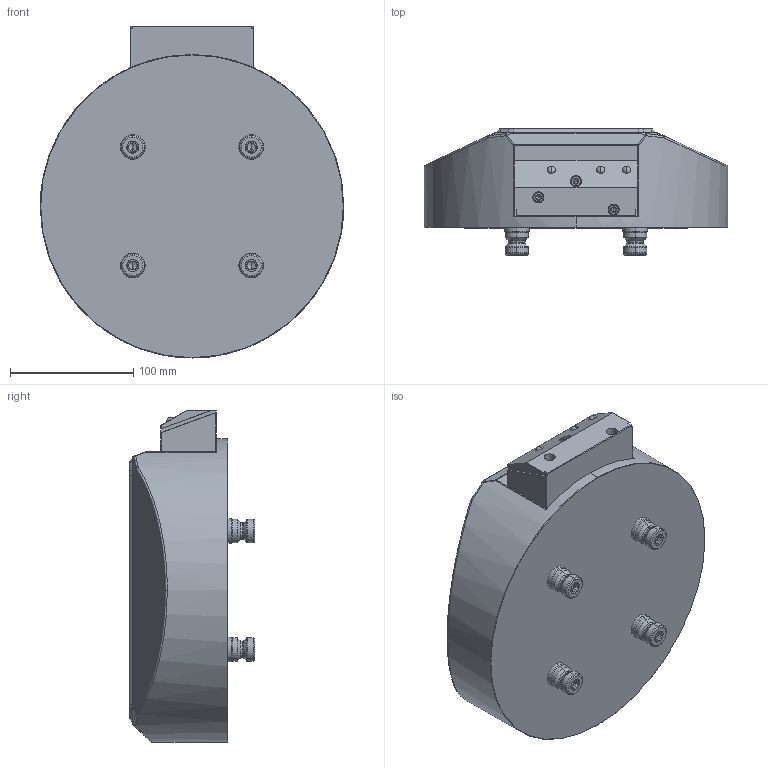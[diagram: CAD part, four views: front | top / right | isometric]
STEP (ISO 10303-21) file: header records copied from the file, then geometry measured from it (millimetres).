
FILE_DESCRIPTION (( 'STEP AP214' ), '1' );
FILE_NAME ('64500.STEP', '2022-08-10T12:27:35', ( '' ), ( '' ), 'SwSTEP 2.0', 'SolidWorks 2021', '' );
FILE_SCHEMA (( 'AUTOMOTIVE_DESIGN' ));
Length unit declared in the file: millimetre
Products named in the file (1): 64500
Bounding box: 246 x 102 x 269.15 mm (x, y, z)
Volume: 3197619 mm3; surface area: 296935.7 mm2
Topology: 21 solids, 22 shells, 785 faces, 1792 edges, 1061 vertices
Faces by surface type: plane 243, cylinder 235, cone 197, torus 76, bspline 26, sphere 8
Entity records: 31174 total; most frequent: CARTESIAN_POINT 4850, DIRECTION 3857, ORIENTED_EDGE 3474, EDGE_CURVE 1737, AXIS2_PLACEMENT_3D 1523, VERTEX_POINT 1052, EDGE_LOOP 847, VECTOR 811
